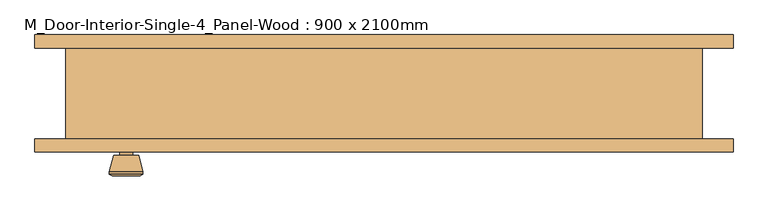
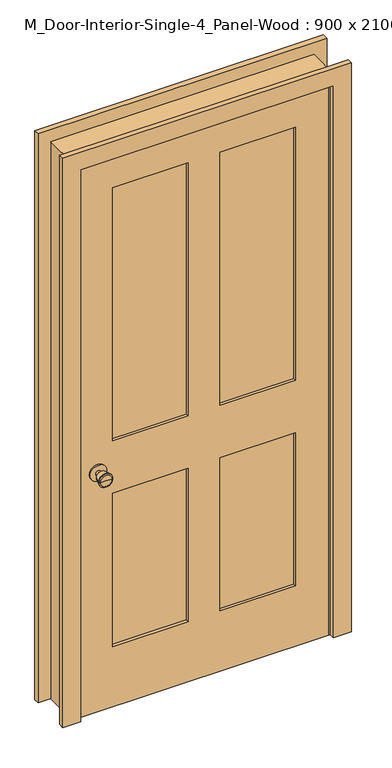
"""IFC4 building model written with IfcOpenShell, lengths in millimetres: door geometry, M_Door-Interior-Single-4_Panel-Wood : 900 x 2100mm."""

from ifc_helpers import new_model, si_unit, point, frame, frame_2d, origin, place, context, project, spatial, polyline, circle_curve, trimmed, segment, composite_curve, outline, extrude, faceted_brep, source, transform, mapped, element, save
from ifc_brep_helpers import plane_surface, cylinder_surface, revolved_surface, advanced_brep


def m_door_interior_single_4_panel_wood_900_x_2100mm_1f4ed184(model_context):
    return source(origin(), model_context, "Body", "SolidModel", [
        advanced_brep(
        [(-385.0, -23.575, 914.4), (-395.0, -23.575, 914.4), (-375.0, -23.575, 914.4), (-364.5241324, 25.425, 914.4), (-405.4758676, 25.425, 914.4), (-385.0, 25.425, 914.4), (-360.0, 23.5971319, 914.4), (-410.0, 23.5971319, 914.4), (-360.0, 20.1334537, 914.4), (-410.0, 20.1334537, 914.4), (-366.363764, -4.575, 914.4), (-403.636236, -4.575, 914.4), (-375.0, -4.575, 914.4), (-395.0, -4.575, 914.4)],
        [
            (0, 1),
            (1, 2, circle_curve(frame((-385.0, -23.575, 914.4), z_axis=(0.0, -1.0, 0.0), x_axis=(-1.0, 0.0, 0.0)), 10.0)),
            (2, 0),
            (2, 1, circle_curve(frame((-385.0, -23.575, 914.4), z_axis=(0.0, -1.0, 0.0), x_axis=(-1.0, 0.0, 0.0)), 10.0)),
            (3, 4, circle_curve(frame((-385.0, 25.425, 914.4), z_axis=(0.0, 1.0, 0.0), x_axis=(-1.0, 0.0, 0.0)), 20.4758676)),
            (4, 5),
            (5, 3),
            (4, 3, circle_curve(frame((-385.0, 25.425, 914.4), z_axis=(0.0, 1.0, 0.0), x_axis=(-1.0, 0.0, 0.0)), 20.4758676)),
            (6, 7, circle_curve(frame((-385.0, 23.5971319, 914.4), z_axis=(0.0, 1.0, 0.0), x_axis=(-1.0, 0.0, 0.0)), 25.0)),
            (7, 4),
            (3, 6),
            (7, 6, circle_curve(frame((-385.0, 23.5971319, 914.4), z_axis=(0.0, 1.0, 0.0), x_axis=(-1.0, 0.0, 0.0)), 25.0)),
            (8, 9, circle_curve(frame((-385.0, 20.1334537, 914.4), z_axis=(0.0, 1.0, 0.0), x_axis=(-1.0, 0.0, 0.0)), 25.0)),
            (9, 7),
            (6, 8),
            (9, 8, circle_curve(frame((-385.0, 20.1334537, 914.4), z_axis=(0.0, 1.0, 0.0), x_axis=(-1.0, 0.0, 0.0)), 25.0)),
            (10, 11, circle_curve(frame((-385.0, -4.575, 914.4), z_axis=(0.0, 1.0, 0.0), x_axis=(-1.0, 0.0, 0.0)), 18.636236)),
            (11, 9),
            (8, 10),
            (11, 10, circle_curve(frame((-385.0, -4.575, 914.4), z_axis=(0.0, 1.0, 0.0), x_axis=(-1.0, 0.0, 0.0)), 18.636236)),
            (12, 13, circle_curve(frame((-385.0, -4.575, 914.4), z_axis=(0.0, 1.0, 0.0), x_axis=(-1.0, 0.0, 0.0)), 10.0)),
            (13, 11),
            (10, 12),
            (13, 12, circle_curve(frame((-385.0, -4.575, 914.4), z_axis=(0.0, 1.0, 0.0), x_axis=(-1.0, 0.0, 0.0)), 10.0)),
            (1, 13),
            (12, 2),
        ],
        [
            plane_surface(frame((-385.0, -23.575, 914.4), z_axis=(0.0, -1.0, 0.0), x_axis=(-1.0, 0.0, 0.0))),
            plane_surface(frame((-385.0, 25.425, 914.4), z_axis=(0.0, 1.0, 0.0), x_axis=(-1.0, 0.0, 0.0))),
            revolved_surface(polyline([(-405.4758676, 25.425, 914.4), (-410.0, 23.5971319, 914.4)]), (-385.0, -23.575, 914.4), (0.0, -1.0, 0.0)),
            cylinder_surface(frame((-385.0, -23.575, 914.4), z_axis=(0.0, -1.0, 0.0), x_axis=(-1.0, 0.0, 0.0)), 25.0),
            revolved_surface(polyline([(-410.0, 20.1334537, 914.4), (-403.636236, -4.575, 914.4)]), (-385.0, -23.575, 914.4), (0.0, -1.0, 0.0)),
            plane_surface(frame((-385.0, -4.575, 914.4), z_axis=(0.0, -1.0, 0.0), x_axis=(-1.0, 0.0, 0.0))),
            cylinder_surface(frame((-385.0, -23.575, 914.4), z_axis=(0.0, -1.0, 0.0), x_axis=(-1.0, 0.0, 0.0)), 10.0),
        ],
        [
            (0, [[1, 2, 3]]),
            (0, [[-3, 4, -1]]),
            (1, [[5, 6, 7]]),
            (1, [[8, -7, -6]]),
            (2, [[9, 10, -5, 11]]),
            (2, [[12, -11, -8, -10]]),
            (3, [[13, 14, -9, 15]]),
            (3, [[16, -15, -12, -14]]),
            (4, [[17, 18, -13, 19]]),
            (4, [[20, -19, -16, -18]]),
            (5, [[21, 22, -17, 23]]),
            (5, [[24, -23, -20, -22]]),
            (6, [[-2, 25, -21, 26]]),
            (6, [[-4, -26, -24, -25]]),
        ],
    ),
        extrude(outline(composite_curve([segment(trimmed(circle_curve(frame_2d((914.4, -385.0)), 30.0), [point((914.4, -415.0))], [point((914.4, -355.0))], False, "CARTESIAN"), True, "CONTINUOUS"), segment(trimmed(circle_curve(frame_2d((914.4, -385.0)), 30.0), [point((914.4, -355.0))], [point((914.4, -415.0))], False, "CARTESIAN"), True, "CONTINUOUS")], self_intersect=False)), frame((0.0, -29.575, 0.0), z_axis=(0.0, 1.0, 0.0), x_axis=(0.0, 0.0, 1.0)), (0.0, 0.0, 1.0), 6.0),
        advanced_brep(
        [(-385.0, -70.575, 914.4), (-375.0, -70.575, 914.4), (-395.0, -70.575, 914.4), (-364.5241324, -119.575, 914.4), (-385.0, -119.575, 914.4), (-405.4758676, -119.575, 914.4), (-360.0, -117.7471319, 914.4), (-410.0, -117.7471319, 914.4), (-360.0, -114.2834537, 914.4), (-410.0, -114.2834537, 914.4), (-366.363764, -89.575, 914.4), (-403.636236, -89.575, 914.4), (-375.0, -89.575, 914.4), (-395.0, -89.575, 914.4)],
        [
            (0, 1),
            (1, 2, circle_curve(frame((-385.0, -70.575, 914.4), z_axis=(0.0, 1.0, 0.0), x_axis=(-1.0, 0.0, 0.0)), 10.0)),
            (2, 0),
            (2, 1, circle_curve(frame((-385.0, -70.575, 914.4), z_axis=(0.0, 1.0, 0.0), x_axis=(-1.0, 0.0, 0.0)), 10.0)),
            (3, 4),
            (4, 5),
            (5, 3, circle_curve(frame((-385.0, -119.575, 914.4), z_axis=(0.0, -1.0, 0.0), x_axis=(-1.0, 0.0, 0.0)), 20.4758676)),
            (3, 5, circle_curve(frame((-385.0, -119.575, 914.4), z_axis=(0.0, -1.0, 0.0), x_axis=(-1.0, 0.0, 0.0)), 20.4758676)),
            (6, 3),
            (5, 7),
            (7, 6, circle_curve(frame((-385.0, -117.7471319, 914.4), z_axis=(0.0, -1.0, 0.0), x_axis=(-1.0, 0.0, 0.0)), 25.0)),
            (6, 7, circle_curve(frame((-385.0, -117.7471319, 914.4), z_axis=(0.0, -1.0, 0.0), x_axis=(-1.0, 0.0, 0.0)), 25.0)),
            (8, 6),
            (7, 9),
            (9, 8, circle_curve(frame((-385.0, -114.2834537, 914.4), z_axis=(0.0, -1.0, 0.0), x_axis=(-1.0, 0.0, 0.0)), 25.0)),
            (8, 9, circle_curve(frame((-385.0, -114.2834537, 914.4), z_axis=(0.0, -1.0, 0.0), x_axis=(-1.0, 0.0, 0.0)), 25.0)),
            (10, 8),
            (9, 11),
            (11, 10, circle_curve(frame((-385.0, -89.575, 914.4), z_axis=(0.0, -1.0, 0.0), x_axis=(-1.0, 0.0, 0.0)), 18.636236)),
            (10, 11, circle_curve(frame((-385.0, -89.575, 914.4), z_axis=(0.0, -1.0, 0.0), x_axis=(-1.0, 0.0, 0.0)), 18.636236)),
            (12, 10),
            (11, 13),
            (13, 12, circle_curve(frame((-385.0, -89.575, 914.4), z_axis=(0.0, -1.0, 0.0), x_axis=(-1.0, 0.0, 0.0)), 10.0)),
            (12, 13, circle_curve(frame((-385.0, -89.575, 914.4), z_axis=(0.0, -1.0, 0.0), x_axis=(-1.0, 0.0, 0.0)), 10.0)),
            (1, 12),
            (13, 2),
        ],
        [
            plane_surface(frame((-385.0, -70.575, 914.4), z_axis=(0.0, 1.0, 0.0), x_axis=(-1.0, 0.0, 0.0))),
            plane_surface(frame((-385.0, -119.575, 914.4), z_axis=(0.0, -1.0, 0.0), x_axis=(-1.0, 0.0, 0.0))),
            revolved_surface(polyline([(-405.4758676, -119.575, 914.4), (-410.0, -117.7471319, 914.4)]), (-385.0, -70.575, 914.4), (0.0, 1.0, 0.0)),
            cylinder_surface(frame((-385.0, -70.575, 914.4), z_axis=(0.0, 1.0, 0.0), x_axis=(-1.0, 0.0, 0.0)), 25.0),
            revolved_surface(polyline([(-410.0, -114.2834537, 914.4), (-403.636236, -89.575, 914.4)]), (-385.0, -70.575, 914.4), (0.0, 1.0, 0.0)),
            plane_surface(frame((-385.0, -89.575, 914.4), z_axis=(0.0, 1.0, 0.0), x_axis=(-1.0, 0.0, 0.0))),
            cylinder_surface(frame((-385.0, -70.575, 914.4), z_axis=(0.0, 1.0, 0.0), x_axis=(-1.0, 0.0, 0.0)), 10.0),
        ],
        [
            (0, [[1, 2, 3]]),
            (0, [[-3, 4, -1]]),
            (1, [[5, 6, 7]]),
            (1, [[-6, -5, 8]]),
            (2, [[9, -7, 10, 11]]),
            (2, [[-10, -8, -9, 12]]),
            (3, [[13, -11, 14, 15]]),
            (3, [[-14, -12, -13, 16]]),
            (4, [[17, -15, 18, 19]]),
            (4, [[-18, -16, -17, 20]]),
            (5, [[21, -19, 22, 23]]),
            (5, [[-22, -20, -21, 24]]),
            (6, [[25, -23, 26, -2]]),
            (6, [[-26, -24, -25, -4]]),
        ],
    ),
        extrude(outline(composite_curve([segment(trimmed(circle_curve(frame_2d((914.4, -385.0)), 30.0), [point((914.4, -415.0))], [point((914.4, -355.0))], False, "CARTESIAN"), True, "CONTINUOUS"), segment(trimmed(circle_curve(frame_2d((914.4, -385.0)), 30.0), [point((914.4, -355.0))], [point((914.4, -415.0))], False, "CARTESIAN"), True, "CONTINUOUS")], self_intersect=False)), frame((0.0, -70.575, 0.0), z_axis=(0.0, 1.0, 0.0), x_axis=(0.0, 0.0, 1.0)), (0.0, 0.0, 1.0), 6.0),
        extrude(outline(polyline([(330.0, -41.2416667), (330.0, -52.9083333), (57.5, -52.9083333), (57.5, -41.2416667), (330.0, -41.2416667)])), frame((0.0, 0.0, 1014.4), z_axis=(0.0, 0.0, 1.0), x_axis=(1.0, 0.0, 0.0)), (0.0, 0.0, 1.0), 965.6),
        extrude(outline(polyline([(-57.5, -41.2416667), (-57.5, -52.9083333), (-330.0, -52.9083333), (-330.0, -41.2416667), (-57.5, -41.2416667)])), frame((0.0, 0.0, 1014.4), z_axis=(0.0, 0.0, 1.0), x_axis=(1.0, 0.0, 0.0)), (0.0, 0.0, 1.0), 965.6),
        extrude(outline(polyline([(330.0, -41.2416667), (330.0, -52.9083333), (57.5, -52.9083333), (57.5, -41.2416667), (330.0, -41.2416667)])), frame((0.0, 0.0, 230.0), z_axis=(0.0, 0.0, 1.0), x_axis=(1.0, 0.0, 0.0)), (0.0, 0.0, 1.0), 584.4),
        extrude(outline(polyline([(-57.5, -41.2416667), (-57.5, -52.9083333), (-330.0, -52.9083333), (-330.0, -41.2416667), (-57.5, -41.2416667)])), frame((0.0, 0.0, 230.0), z_axis=(0.0, 0.0, 1.0), x_axis=(1.0, 0.0, 0.0)), (0.0, 0.0, 1.0), 584.4),
        extrude(outline(polyline([(2100.0, -450.0), (0.0, -450.0), (0.0, 450.0), (2100.0, 450.0), (2100.0, -450.0)]), holes=[polyline([(1980.0, 57.5), (1980.0, 330.0), (1014.4, 330.0), (1014.4, 57.5), (1980.0, 57.5)]), polyline([(1014.4, -57.5), (1014.4, -330.0), (1980.0, -330.0), (1980.0, -57.5), (1014.4, -57.5)]), polyline([(814.4, 57.5), (814.4, 330.0), (230.0, 330.0), (230.0, 57.5), (814.4, 57.5)]), polyline([(230.0, -57.5), (230.0, -330.0), (814.4, -330.0), (814.4, -57.5), (230.0, -57.5)])]), frame((0.0, -64.575, 0.0), z_axis=(0.0, 1.0, 0.0), x_axis=(0.0, 0.0, 1.0)), (0.0, 0.0, 1.0), 35.0),
        faceted_brep([(475.0, -64.575, 0.0), (450.0, -64.575, 0.0), (450.0, -29.575, 0.0), (437.3, -29.575, 0.0), (437.3, 5.35, 0.0), (450.0, 5.35, 0.0), (450.0, 70.925, 0.0), (475.0, 70.925, 0.0), (475.0, 70.925, 2125.0), (475.0, -64.575, 2125.0), (450.0, 70.925, 2100.0), (-450.0, 70.925, 2100.0), (-450.0, 70.925, 0.0), (-475.0, 70.925, 0.0), (-475.0, 70.925, 2125.0), (450.0, 5.35, 2100.0), (437.3, 5.35, 2087.3), (-437.3, 5.35, 2087.3), (-437.3, 5.35, 0.0), (-450.0, 5.35, 0.0), (-450.0, 5.35, 2100.0), (437.3, -29.575, 2087.3), (450.0, -29.575, 2100.0), (-450.0, -29.575, 2100.0), (-450.0, -29.575, 0.0), (-437.3, -29.575, 0.0), (-437.3, -29.575, 2087.3), (450.0, -64.575, 2100.0), (-475.0, -64.575, 2125.0), (-475.0, -64.575, 0.0), (-450.0, -64.575, 0.0), (-450.0, -64.575, 2100.0)], [[[0, 1, 2, 3, 4, 5, 6, 7]], [[7, 8, 9, 0]], [[6, 10, 11, 12, 13, 14, 8, 7]], [[5, 15, 10, 6]], [[4, 16, 17, 18, 19, 20, 15, 5]], [[3, 21, 16, 4]], [[2, 22, 23, 24, 25, 26, 21, 3]], [[1, 27, 22, 2]], [[0, 9, 28, 29, 30, 31, 27, 1]], [[8, 14, 28, 9]], [[15, 20, 11, 10]], [[21, 26, 17, 16]], [[27, 31, 23, 22]], [[29, 13, 12, 19, 18, 25, 24, 30]], [[14, 13, 29, 28]], [[20, 19, 12, 11]], [[26, 25, 18, 17]], [[31, 30, 24, 23]]]),
        extrude(outline(polyline([(0.0, 521.35), (2171.35, 521.35), (2171.35, -521.35), (0.0, -521.35), (0.0, -456.35), (2106.35, -456.35), (2106.35, 456.35), (0.0, 456.35), (0.0, 521.35)])), frame((0.0, 70.925, 0.0), z_axis=(0.0, 1.0, 0.0), x_axis=(0.0, 0.0, 1.0)), (0.0, 0.0, 1.0), 20.0),
        extrude(outline(polyline([(0.0, 521.35), (2171.35, 521.35), (2171.35, -521.35), (0.0, -521.35), (0.0, -456.35), (2106.35, -456.35), (2106.35, 456.35), (0.0, 456.35), (0.0, 521.35)])), frame((0.0, -84.575, 0.0), z_axis=(0.0, 1.0, 0.0), x_axis=(0.0, 0.0, 1.0)), (0.0, 0.0, 1.0), 20.0),
    ])


if __name__ == "__main__":
    model = new_model("IFC4")
    model_context = context("Model", 3, world=origin())
    ifc_project = project(units=[si_unit("LENGTHUNIT", "METRE", prefix="MILLI")], contexts=[model_context])
    site = spatial("IfcSite", under=ifc_project)
    building = spatial("IfcBuilding", under=site)
    placement = place(None, origin())
    m_door_interior_single_4_panel_wood_900_x_2100mm_shape = m_door_interior_single_4_panel_wood_900_x_2100mm_1f4ed184(model_context)
    element("IfcDoor", 1, ObjectType="M_Door-Interior-Single-4_Panel-Wood : 900 x 2100mm", at=placement, inside=building, context=model_context, shape_type="MappedRepresentation", body=[
        mapped(m_door_interior_single_4_panel_wood_900_x_2100mm_shape, transform((0.0, 0.0, 0.0), x_axis=(1.0, 0.0, 0.0), y_axis=(0.0, 1.0, 0.0), z_axis=(0.0, 0.0, 1.0))),
    ])
    save(model, "model.ifc")
